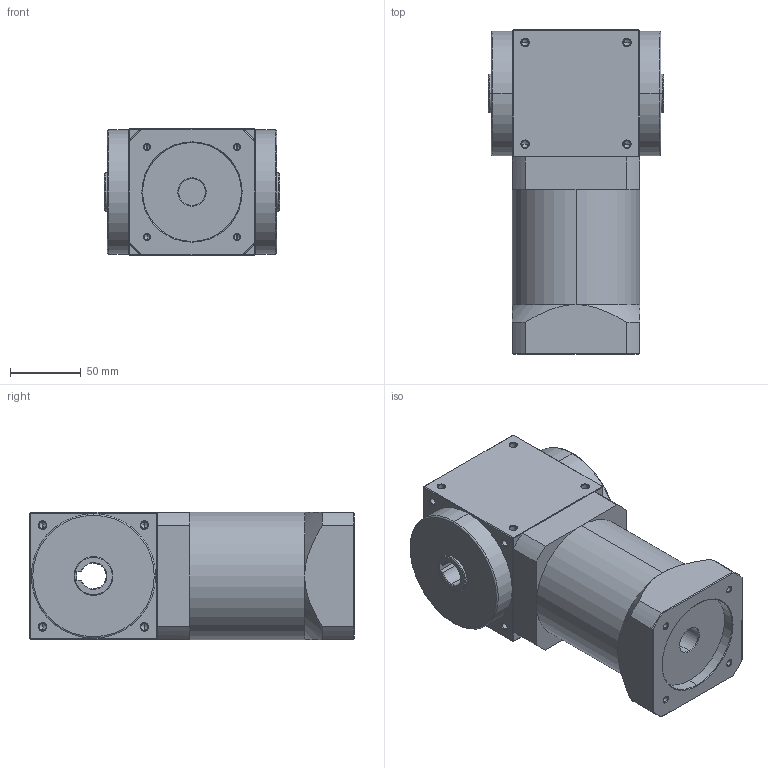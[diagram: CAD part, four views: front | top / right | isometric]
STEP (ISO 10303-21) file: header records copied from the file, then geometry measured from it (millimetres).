
FILE_DESCRIPTION (( 'STEP AP214' ), '1' );
FILE_NAME ('AT090-FH-L2-750W.STEP', '2019-08-05T07:42:00', ( 'User' ), ( 'Far123' ), 'SwSTEP 2.0', 'SolidWorks 2015', '' );
FILE_SCHEMA (( 'AUTOMOTIVE_DESIGN' ));
Length unit declared in the file: millimetre
Products named in the file (1): AT090-FH-L2-750W
Bounding box: 124 x 229.5 x 90 mm (x, y, z)
Volume: 1803766.5 mm3; surface area: 116736.2 mm2
Topology: 1 solids, 1 shells, 294 faces, 726 edges, 392 vertices
Faces by surface type: cone 118, cylinder 113, plane 59, torus 4
Entity records: 9304 total; most frequent: CARTESIAN_POINT 1857, DIRECTION 1368, ORIENTED_EDGE 1356, EDGE_CURVE 678, AXIS2_PLACEMENT_3D 527, VERTEX_POINT 392, EDGE_LOOP 326, VECTOR 314
